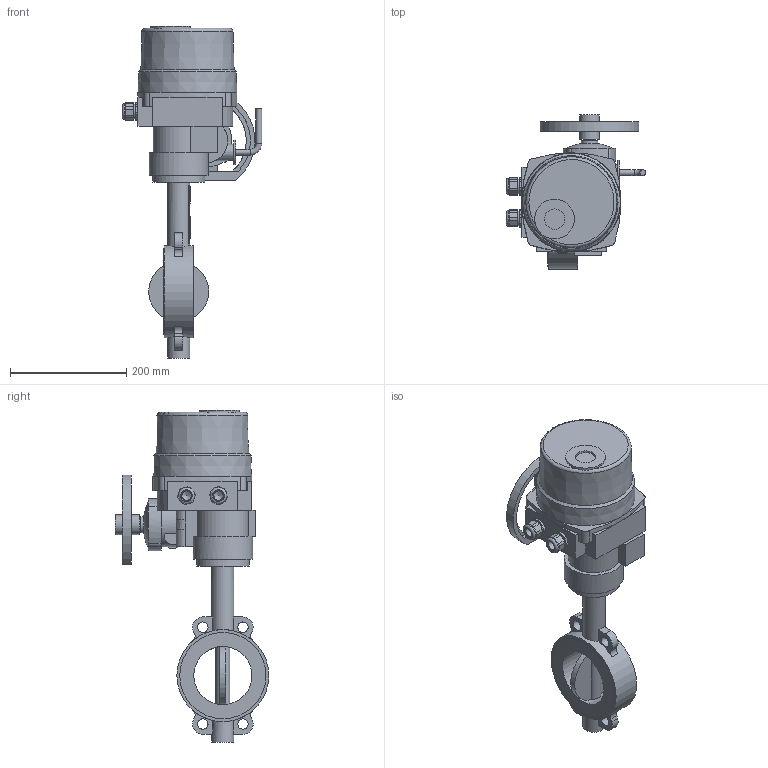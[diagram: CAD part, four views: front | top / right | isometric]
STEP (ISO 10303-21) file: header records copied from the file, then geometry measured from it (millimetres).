
FILE_DESCRIPTION(('STEP AP203'), '1');
FILE_NAME('青蜮铕 017WDN100+菹 QT10-1', '', ('UNSPECIFIED'), ('UNSPECIFIED'), 'ASCON STEP Converter 1.6', 'ASCON Math Kernel', '');
FILE_SCHEMA(('CONFIG_CONTROL_DESIGN'));
Length unit declared in the file: millimetre
Bounding box: 239.5 x 264 x 570 mm (x, y, z)
Volume: 5075447.3 mm3; surface area: 395207.2 mm2
Topology: 2 solids, 3 shells, 821 faces, 2325 edges, 1496 vertices
Faces by surface type: cylinder 532, plane 278, torus 5, cone 5, bspline 1
Full cylindrical faces by diameter (mm): 6.8 x4, 10 x6, 15.9 x1, 16 x2, 17 x2, 18 x4, 20 x1, 22.835 x2, 25 x2, 28 x3, 28.026 x1, 34 x2, 35 x1, 38 x2, 42 x1, 55 x1, 68 x1, 90 x1, 100 x1, 102 x1, 148 x2, 158 x1
Entity records: 34502 total; most frequent: CARTESIAN_POINT 5730, DIRECTION 5035, ORIENTED_EDGE 4481, EDGE_CURVE 2272, AXIS2_PLACEMENT_3D 1973, VERTEX_POINT 1494, CIRCLE 1152, LINE 1089
